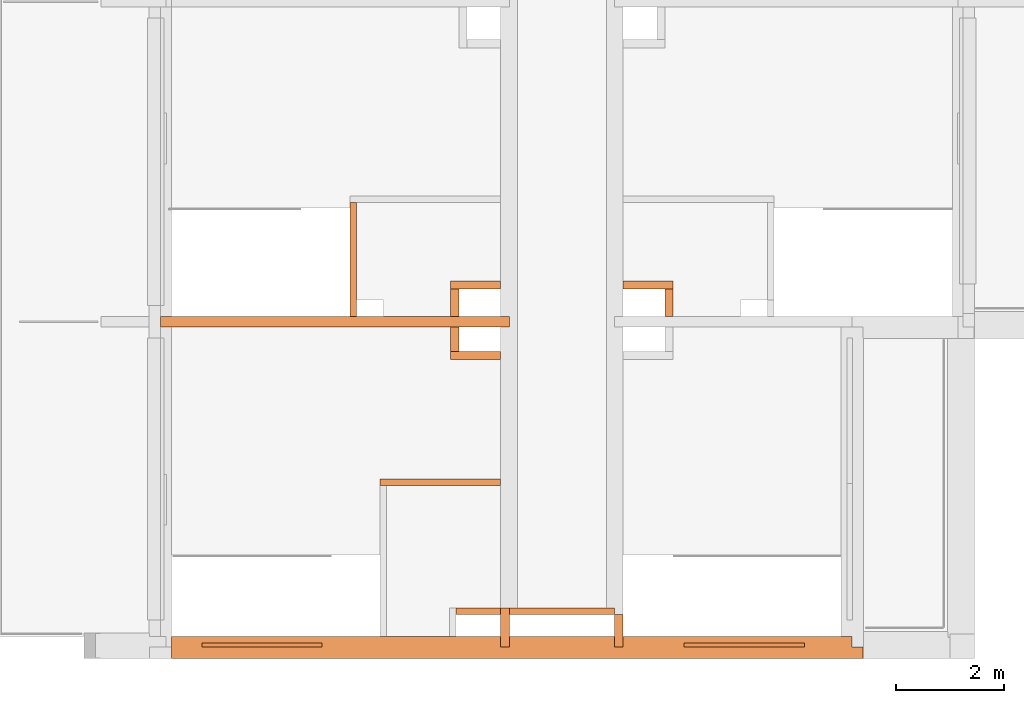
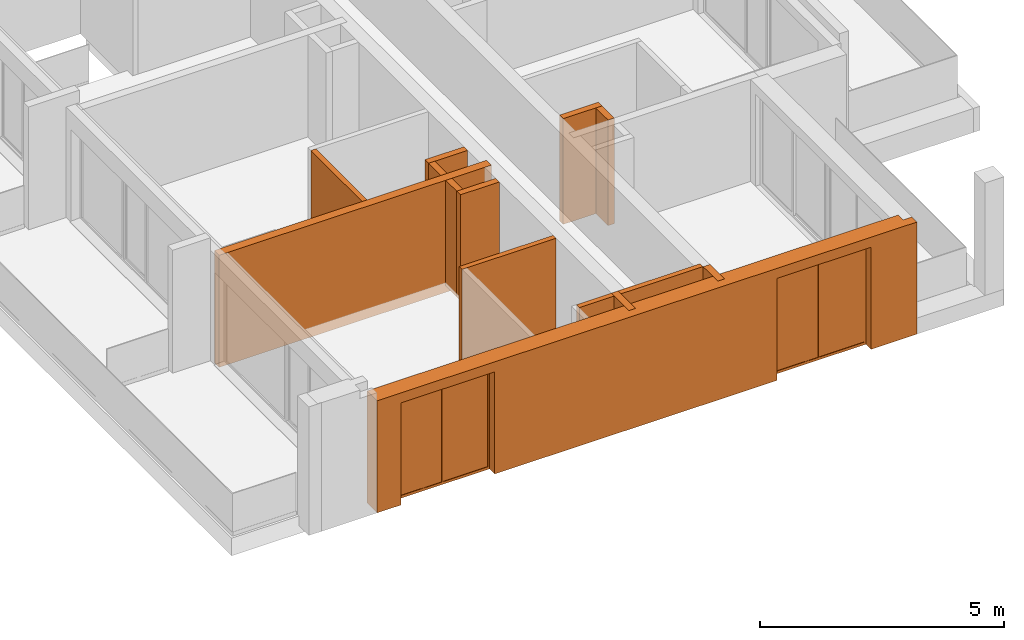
# One storey, part 26 of 30: 15 proxies, 2 openings.
"""IFC2X3 building model written with IfcOpenShell, lengths in millimetres."""

from ifc_helpers import new_model, entity, si_unit, converted_unit, derived_unit, money_unit, direction, frame, origin_with_axes, origin_2d_with_axis, place, context, subcontext, project, spatial, rectangle, extrude, faceted_brep, material, material_list, type_object, element, fill, save


model = new_model("IFC2X3")

# Units and contexts
model_context = context("Model", 3, precision=0.01, world=origin_with_axes(), true_north=direction((0.34421633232, 0.938890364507)))
body_context = subcontext(model_context, "Body", "Model", "MODEL_VIEW")
ifc_project = project(units=[si_unit("LENGTHUNIT", "METRE", prefix="MILLI"), si_unit("AREAUNIT", "SQUARE_METRE"), si_unit("VOLUMEUNIT", "CUBIC_METRE"), converted_unit("PLANEANGLEUNIT", "DEGREE", entity("IfcPlaneAngleMeasure", 0.0174532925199), si_unit("PLANEANGLEUNIT", "RADIAN"), dimensions=[0, 0, 0, 0, 0, 0, 0]), si_unit("SOLIDANGLEUNIT", "STERADIAN"), money_unit("USD"), converted_unit("TIMEUNIT", "Year", entity("IfcTimeMeasure", 31556926.0), si_unit("TIMEUNIT", "SECOND"), dimensions=[0, 0, 1, 0, 0, 0, 0]), si_unit("MASSUNIT", "GRAM", prefix="KILO"), si_unit("THERMODYNAMICTEMPERATUREUNIT", "DEGREE_CELSIUS"), si_unit("LUMINOUSINTENSITYUNIT", "LUMEN"), si_unit("ENERGYUNIT", "JOULE", prefix="MEGA"), derived_unit("THERMALCONDUCTANCEUNIT", [(si_unit("POWERUNIT", "WATT"), 1), (si_unit("LENGTHUNIT", "METRE"), -1), (si_unit("THERMODYNAMICTEMPERATUREUNIT", "KELVIN"), -1)]), derived_unit("SPECIFICHEATCAPACITYUNIT", [(si_unit("ENERGYUNIT", "JOULE"), 1), (si_unit("MASSUNIT", "GRAM", prefix="KILO"), -1), (si_unit("THERMODYNAMICTEMPERATUREUNIT", "KELVIN"), -1)]), derived_unit("MASSDENSITYUNIT", [(si_unit("MASSUNIT", "GRAM", prefix="KILO"), 1), (si_unit("VOLUMEUNIT", "CUBIC_METRE"), -1)])], contexts=[model_context])

# Site, building, storey
site_placement = place(None, origin_with_axes())
site = spatial("IfcSite", under=ifc_project, at=site_placement, Name="USTRONIE MORSKIE", CompositionType="ELEMENT")
building_placement = place(site_placement, origin_with_axes())
building = spatial("IfcBuilding", under=site, at=building_placement, Name="Budynek", CompositionType="ELEMENT")
storey_placement = place(building_placement, frame((0.0, 0.0, 16000.0), z_axis=(0.0, 0.0, 1.0), x_axis=(1.0, 0.0, 0.0)))
storey = spatial("IfcBuildingStorey", under=building, at=storey_placement, Name="ANTRESOLA - KOND. TECHNICZNA", CompositionType="ELEMENT", Elevation=16000.0)

# Proxies
ifc_material_1 = material(Name="Bloczki silikatowe")
building_element_proxy_type_1 = type_object("IfcBuildingElementProxyType", Name="Bloczki silikatowe 120", PredefinedType="NOTDEFINED")
proxy_1_placement = place(storey_placement, frame((416017.920919, 712141.199036, -159.999998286), z_axis=(0.0, 0.0, 1.0), x_axis=(-1.0, 0.0, 0.0)))
element("IfcBuildingElementProxy", 1, at=proxy_1_placement, inside=storey, type_object=building_element_proxy_type_1, material=ifc_material_1, Name="SW-04", context=body_context, shape_type="Brep", body=[
    faceted_brep([(2300.0, -59.9999999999, 2800.0), (2300.0, 59.9999999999, 2800.0), (80.0, 59.9999999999, 2800.0), (80.0, -59.9999999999, 2800.0), (2300.0, -59.9999999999, 0.0), (2300.0, 59.9999999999, 0.0), (80.0, 59.9999999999, 0.0), (80.0, -59.9999999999, 0.0)], [[[0, 1, 2, 3]], [[1, 0, 4, 5]], [[1, 5, 6, 2]], [[7, 3, 2, 6]], [[4, 0, 3, 7]], [[5, 4, 7, 6]]]),
])
proxy_2_placement = place(storey_placement, frame((413217.920919, 717361.219701, -159.999998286), z_axis=(0.0, 0.0, 1.0), x_axis=(0.0, -1.0, 0.0)))
element("IfcBuildingElementProxy", 2, at=proxy_2_placement, inside=storey, type_object=building_element_proxy_type_1, material=ifc_material_1, Name="SW-04", context=body_context, shape_type="Brep", body=[
    faceted_brep([(2160.02066499, -60.0, 2800.0), (2160.02066499, 60.0, 2800.0), (59.9999999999, 60.0, 2800.0), (59.9999999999, -60.0, 2800.0), (2160.02066499, -60.0, 0.0), (2160.02066499, 60.0, 0.0), (59.9999999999, 60.0, 0.0), (59.9999999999, -60.0, 0.0)], [[[0, 1, 2, 3]], [[1, 0, 4, 5]], [[1, 5, 6, 2]], [[7, 3, 2, 6]], [[4, 0, 3, 7]], [[5, 4, 7, 6]]]),
])
proxy_3_placement = place(storey_placement, frame((415117.920919, 709701.199036, -160.0), z_axis=(0.0, 0.0, 1.0), x_axis=(1.0, 0.0, 0.0)))
element("IfcBuildingElementProxy", 3, at=proxy_3_placement, inside=storey, type_object=building_element_proxy_type_1, material=ifc_material_1, Name="SW-04", context=body_context, shape_type="Brep", body=[
    faceted_brep([(980.0, 120.0, 0.0), (980.0, 120.0, 680.0), (2920.0, 120.0, 680.0), (2920.0, 120.0, 0.0), (980.0, 0.0, 0.0), (980.0, 0.0, 680.0), (2920.0, 0.0, 680.0), (2920.0, 0.0, 0.0)], [[[0, 1, 2, 3]], [[4, 5, 1, 0]], [[5, 6, 2, 1]], [[3, 2, 6, 7]], [[4, 0, 3, 7]], [[7, 6, 5, 4]]]),
    faceted_brep([(2920.0, 0.0, 2800.0), (2920.0, 0.0, 880.0), (2920.0, 120.0, 880.0), (2920.0, 120.0, 2800.0), (980.0, 0.0, 2800.0), (980.0, 0.0, 880.0), (980.0, 120.0, 880.0), (980.0, 120.0, 2800.0)], [[[0, 1, 2, 3]], [[4, 5, 1, 0]], [[5, 6, 2, 1]], [[3, 2, 6, 7]], [[7, 4, 0, 3]], [[7, 6, 5, 4]]]),
    faceted_brep([(0.0, 0.0, 2800.0), (820.0, 0.0, 2800.0), (820.0, 120.0, 2800.0), (0.0, 120.0, 2800.0), (820.0, 0.0, 0.0), (0.0, 0.0, 0.0), (820.0, 120.0, 0.0), (0.0, 120.0, 0.0)], [[[0, 1, 2, 3]], [[4, 1, 0, 5]], [[6, 2, 1, 4]], [[3, 2, 6, 7]], [[5, 0, 3, 7]], [[7, 6, 4, 5]]]),
])

# Proxies, openings
ifc_material_2 = material(Name="Beton konstrukcyjny B25")
ifc_material_3 = material(Name="Wełna ELEW")
ifc_material_4 = material(Name="Tynk zewnętrzny")
ifc_material_list = material_list([ifc_material_2, ifc_material_3, ifc_material_4])
building_element_proxy_type_2 = type_object("IfcBuildingElementProxyType", Name="20+20 410", PredefinedType="NOTDEFINED")
proxy_4_placement = place(storey_placement, frame((409767.920919, 709201.199036, -160.0), z_axis=(0.0, 0.0, 1.0), x_axis=(1.0, 0.0, 0.0)))
proxy_4 = element("IfcBuildingElementProxy", 4, at=proxy_4_placement, inside=storey, type_object=building_element_proxy_type_2, material=ifc_material_list, Name="SZ-01", context=body_context, shape_type="Brep", body=[
    faceted_brep([(100.0, 100.0, 0.0), (100.0, 100.0, 2800.0), (6170.0, 100.0, 2800.0), (6170.0, 100.0, 0.0), (100.0, -100.0, 2800.0), (100.0, -100.0, 0.0), (6170.0, -100.0, 2800.0), (6170.0, -100.0, 0.0)], [[[0, 1, 2, 3]], [[4, 1, 0, 5]], [[1, 4, 6, 2]], [[6, 7, 3, 2]], [[5, 0, 3, 7]], [[4, 5, 7, 6]]]),
    faceted_brep([(8430.0, 100.0, 0.0), (12650.0, 100.0, 0.0), (12650.0, -100.0, 0.0), (8430.0, -100.0, 0.0), (8430.0, 100.0, 2800.0), (12650.0, 100.0, 2800.0), (12650.0, -100.0, 2800.0), (8430.0, -100.0, 2800.0)], [[[0, 1, 2, 3]], [[4, 5, 1, 0]], [[2, 1, 5, 6]], [[3, 2, 6, 7]], [[3, 7, 4, 0]], [[7, 6, 5, 4]]]),
    faceted_brep([(6330.0, 100.0, 0.0), (8270.0, 100.0, 0.0), (8270.0, -100.0, 0.0), (6330.0, -100.0, 0.0), (6330.0, 100.0, 2800.0), (8270.0, 100.0, 2800.0), (8270.0, -100.0, 2800.0), (6330.0, -100.0, 2800.0)], [[[0, 1, 2, 3]], [[4, 5, 1, 0]], [[2, 1, 5, 6]], [[3, 2, 6, 7]], [[3, 7, 4, 0]], [[7, 6, 5, 4]]]),
    faceted_brep([(100.0, -100.0, 0.0), (100.0, -100.0, 2800.0), (12850.0, -100.0, 2800.0), (12850.0, -100.0, 0.0), (100.0, -300.0, 2800.0), (100.0, -300.0, 0.0), (12850.0, -300.0, 2800.0), (12850.0, -300.0, 0.0)], [[[0, 1, 2, 3]], [[4, 1, 0, 5]], [[1, 4, 6, 2]], [[6, 7, 3, 2]], [[5, 0, 3, 7]], [[4, 5, 7, 6]]]),
    faceted_brep([(100.0, -300.0, 0.0), (100.0, -300.0, 2800.0), (12860.0, -300.0, 2800.0), (12860.0, -300.0, 0.0), (100.0, -310.0, 2800.0), (100.0, -310.0, 0.0), (12860.0, -310.0, 2800.0), (12860.0, -310.0, 0.0)], [[[0, 1, 2, 3]], [[4, 1, 0, 5]], [[1, 4, 6, 2]], [[6, 7, 3, 2]], [[5, 0, 3, 7]], [[4, 5, 7, 6]]]),
])
opening_1_placement = place(proxy_4_placement, frame((1769.97021247, 0.0, 0.0), z_axis=(0.0, 0.0, 1.0), x_axis=(1.0, 0.0, 0.0)))
opening_1 = element("IfcOpeningElement", 5, at=opening_1_placement, cuts=proxy_4, Name="Wz.04", context=body_context, shape_type="SweptSolid", body=[
    extrude(rectangle(XDim=2220.00002235, YDim=2550.0, at=origin_2d_with_axis()), frame((0.0, -99.9999999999, 1275.0), z_axis=(0.0, -1.0, 0.0), x_axis=(1.0, 0.0, 0.0)), (0.0, 0.0, 1.0), 620.0),
    extrude(rectangle(XDim=2220.00002235, YDim=2550.0, at=origin_2d_with_axis()), frame((0.0, -99.9999999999, 1275.0), z_axis=(0.0, 1.0, 0.0), x_axis=(1.0, 0.0, 0.0)), (0.0, 0.0, 1.0), 610.0),
])
opening_2_placement = place(proxy_4_placement, frame((10660.0033173, 0.0, 0.0), z_axis=(0.0, 0.0, 1.0), x_axis=(1.0, 0.0, 0.0)))
opening_2 = element("IfcOpeningElement", 6, at=opening_2_placement, cuts=proxy_4, Name="Wz.04", context=body_context, shape_type="SweptSolid", body=[
    extrude(rectangle(XDim=2220.00663467, YDim=2550.0, at=origin_2d_with_axis()), frame((0.0, -99.9999999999, 1275.0), z_axis=(0.0, -1.0, 0.0), x_axis=(1.0, 0.0, 0.0)), (0.0, 0.0, 1.0), 620.0),
    extrude(rectangle(XDim=2220.00663467, YDim=2550.0, at=origin_2d_with_axis()), frame((0.0, -99.9999999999, 1275.0), z_axis=(0.0, 1.0, 0.0), x_axis=(1.0, 0.0, 0.0)), (0.0, 0.0, 1.0), 610.0),
])
building_element_proxy_type_3 = type_object("IfcBuildingElementProxyType", Name="Witryna sklepowa 23", PredefinedType="NOTDEFINED")
proxy_5_placement = place(opening_1_placement, frame((1110.00001118, 0.0, 0.0), z_axis=(0.0, 0.0, 1.0), x_axis=(-1.0, 0.0, 0.0)))
proxy_5 = element("IfcBuildingElementProxy", 7, at=proxy_5_placement, inside=storey, type_object=building_element_proxy_type_3, Name="Wz.04", context=body_context, shape_type="Brep", body=[
    faceted_brep([(2220.00002235, 99.9999999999, 2510.0), (2220.00002235, 19.9999999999, 2510.0), (2220.00002235, 19.9999999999, 65.0), (2220.00002235, 99.9999999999, 65.0), (2180.00002235, 99.9999999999, 2510.0), (2180.00002235, 19.9999999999, 2510.0), (2180.00002235, 19.9999999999, 65.0), (2180.00002235, 99.9999999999, 65.0)], [[[0, 1, 2, 3]], [[4, 5, 1, 0]], [[1, 5, 6, 2]], [[3, 2, 6, 7]], [[0, 3, 7, 4]], [[7, 6, 5, 4]]]),
    faceted_brep([(0.0, 99.9999999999, 65.0), (0.0, 19.9999999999, 65.0), (0.0, 19.9999999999, 2510.0), (0.0, 99.9999999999, 2510.0), (40.0, 99.9999999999, 65.0), (40.0, 19.9999999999, 65.0), (40.0, 19.9999999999, 2510.0), (40.0, 99.9999999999, 2510.0)], [[[0, 1, 2, 3]], [[4, 5, 1, 0]], [[1, 5, 6, 2]], [[3, 2, 6, 7]], [[0, 3, 7, 4]], [[7, 6, 5, 4]]]),
    faceted_brep([(0.0, 99.9999999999, 2550.0), (0.0, 19.9999999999, 2550.0), (2220.00002235, 19.9999999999, 2550.0), (2220.00002235, 99.9999999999, 2550.0), (0.0, 99.9999999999, 2510.0), (0.0, 19.9999999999, 2510.0), (40.0, 19.9999999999, 2510.0), (2180.00002235, 19.9999999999, 2510.0), (2220.00002235, 19.9999999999, 2510.0), (2220.00002235, 99.9999999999, 2510.0), (2180.00002235, 99.9999999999, 2510.0), (40.0, 99.9999999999, 2510.0)], [[[0, 1, 2, 3]], [[4, 5, 1, 0]], [[1, 5, 6, 7, 8, 2]], [[3, 2, 8, 9]], [[0, 3, 9, 10, 11, 4]], [[11, 6, 5, 4]], [[10, 7, 6, 11]], [[9, 8, 7, 10]]]),
    faceted_brep([(0.0, 99.9999999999, 65.0), (0.0, 19.9999999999, 65.0), (40.0, 19.9999999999, 65.0), (40.0, 99.9999999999, 65.0), (0.0, 99.9999999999, 0.0), (0.0, 19.9999999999, 0.0), (2220.00002235, 19.9999999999, 0.0), (2220.00002235, 19.9999999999, 65.0), (2180.00002235, 19.9999999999, 65.0), (2180.00002235, 99.9999999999, 65.0), (2220.00002235, 99.9999999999, 65.0), (2220.00002235, 99.9999999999, 0.0)], [[[0, 1, 2, 3]], [[4, 5, 1, 0]], [[1, 5, 6, 7, 8, 2]], [[3, 2, 8, 9]], [[0, 3, 9, 10, 11, 4]], [[11, 6, 5, 4]], [[10, 7, 6, 11]], [[9, 8, 7, 10]]]),
    faceted_brep([(1125.00001118, 50.0, 65.0), (1095.00001118, 50.0, 65.0), (1095.00001118, 99.9999999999, 65.0), (1125.00001118, 99.9999999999, 65.0), (1125.00001118, 50.0, 2510.0), (1095.00001118, 50.0, 2510.0), (1095.00001118, 99.9999999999, 2510.0), (1125.00001118, 99.9999999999, 2510.0)], [[[0, 1, 2, 3]], [[4, 5, 1, 0]], [[1, 5, 6, 2]], [[2, 6, 7, 3]], [[4, 0, 3, 7]], [[5, 4, 7, 6]]]),
    faceted_brep([(2180.00002235, 89.9999999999, 65.0), (2180.00002235, 79.9999999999, 65.0), (1125.00001118, 79.9999999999, 65.0), (1125.00001118, 89.9999999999, 65.0), (2180.00002235, 89.9999999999, 2510.0), (2180.00002235, 79.9999999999, 2510.0), (1125.00001118, 79.9999999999, 2510.0), (1125.00001118, 89.9999999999, 2510.0)], [[[0, 1, 2, 3]], [[4, 5, 1, 0]], [[1, 5, 6, 2]], [[3, 2, 6, 7]], [[0, 3, 7, 4]], [[7, 6, 5, 4]]]),
    faceted_brep([(1095.00001118, 89.9999999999, 65.0), (1095.00001118, 79.9999999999, 65.0), (40.0, 79.9999999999, 65.0), (40.0, 89.9999999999, 65.0), (1095.00001118, 89.9999999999, 2510.0), (1095.00001118, 79.9999999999, 2510.0), (40.0, 79.9999999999, 2510.0), (40.0, 89.9999999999, 2510.0)], [[[0, 1, 2, 3]], [[4, 5, 1, 0]], [[1, 5, 6, 2]], [[3, 2, 6, 7]], [[0, 3, 7, 4]], [[7, 6, 5, 4]]]),
])
fill(opening_1, proxy_5)
proxy_6_placement = place(opening_2_placement, frame((1110.00331734, 0.0, 0.0), z_axis=(0.0, 0.0, 1.0), x_axis=(-1.0, 0.0, 0.0)))
proxy_6 = element("IfcBuildingElementProxy", 8, at=proxy_6_placement, inside=storey, type_object=building_element_proxy_type_3, Name="Wz.04", context=body_context, shape_type="Brep", body=[
    faceted_brep([(2220.00663467, 99.9999999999, 2510.0), (2220.00663467, 19.9999999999, 2510.0), (2220.00663467, 19.9999999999, 65.0), (2220.00663467, 99.9999999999, 65.0), (2180.00663467, 99.9999999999, 2510.0), (2180.00663467, 19.9999999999, 2510.0), (2180.00663467, 19.9999999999, 65.0), (2180.00663467, 99.9999999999, 65.0)], [[[0, 1, 2, 3]], [[4, 5, 1, 0]], [[1, 5, 6, 2]], [[3, 2, 6, 7]], [[0, 3, 7, 4]], [[7, 6, 5, 4]]]),
    faceted_brep([(0.0, 99.9999999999, 65.0), (0.0, 19.9999999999, 65.0), (0.0, 19.9999999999, 2510.0), (0.0, 99.9999999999, 2510.0), (40.0, 99.9999999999, 65.0), (40.0, 19.9999999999, 65.0), (40.0, 19.9999999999, 2510.0), (40.0, 99.9999999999, 2510.0)], [[[0, 1, 2, 3]], [[4, 5, 1, 0]], [[1, 5, 6, 2]], [[3, 2, 6, 7]], [[0, 3, 7, 4]], [[7, 6, 5, 4]]]),
    faceted_brep([(0.0, 99.9999999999, 2550.0), (0.0, 19.9999999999, 2550.0), (2220.00663467, 19.9999999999, 2550.0), (2220.00663467, 99.9999999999, 2550.0), (0.0, 99.9999999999, 2510.0), (0.0, 19.9999999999, 2510.0), (40.0, 19.9999999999, 2510.0), (2180.00663467, 19.9999999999, 2510.0), (2220.00663467, 19.9999999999, 2510.0), (2220.00663467, 99.9999999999, 2510.0), (2180.00663467, 99.9999999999, 2510.0), (40.0, 99.9999999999, 2510.0)], [[[0, 1, 2, 3]], [[4, 5, 1, 0]], [[1, 5, 6, 7, 8, 2]], [[3, 2, 8, 9]], [[0, 3, 9, 10, 11, 4]], [[11, 6, 5, 4]], [[10, 7, 6, 11]], [[9, 8, 7, 10]]]),
    faceted_brep([(0.0, 99.9999999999, 65.0), (0.0, 19.9999999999, 65.0), (40.0, 19.9999999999, 65.0), (40.0, 99.9999999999, 65.0), (0.0, 99.9999999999, 0.0), (0.0, 19.9999999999, 0.0), (2220.00663467, 19.9999999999, 0.0), (2220.00663467, 19.9999999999, 65.0), (2180.00663467, 19.9999999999, 65.0), (2180.00663467, 99.9999999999, 65.0), (2220.00663467, 99.9999999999, 65.0), (2220.00663467, 99.9999999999, 0.0)], [[[0, 1, 2, 3]], [[4, 5, 1, 0]], [[1, 5, 6, 7, 8, 2]], [[3, 2, 8, 9]], [[0, 3, 9, 10, 11, 4]], [[11, 6, 5, 4]], [[10, 7, 6, 11]], [[9, 8, 7, 10]]]),
    faceted_brep([(1125.00331734, 50.0, 65.0), (1095.00331734, 50.0, 65.0), (1095.00331734, 99.9999999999, 65.0), (1125.00331734, 99.9999999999, 65.0), (1125.00331734, 50.0, 2510.0), (1095.00331734, 50.0, 2510.0), (1095.00331734, 99.9999999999, 2510.0), (1125.00331734, 99.9999999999, 2510.0)], [[[0, 1, 2, 3]], [[4, 5, 1, 0]], [[1, 5, 6, 2]], [[2, 6, 7, 3]], [[4, 0, 3, 7]], [[5, 4, 7, 6]]]),
    faceted_brep([(2180.00663467, 89.9999999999, 65.0), (2180.00663467, 79.9999999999, 65.0), (1125.00331734, 79.9999999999, 65.0), (1125.00331734, 89.9999999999, 65.0), (2180.00663467, 89.9999999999, 2510.0), (2180.00663467, 79.9999999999, 2510.0), (1125.00331734, 79.9999999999, 2510.0), (1125.00331734, 89.9999999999, 2510.0)], [[[0, 1, 2, 3]], [[4, 5, 1, 0]], [[1, 5, 6, 2]], [[3, 2, 6, 7]], [[0, 3, 7, 4]], [[7, 6, 5, 4]]]),
    faceted_brep([(1095.00331734, 89.9999999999, 65.0), (1095.00331734, 79.9999999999, 65.0), (40.0, 79.9999999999, 65.0), (40.0, 89.9999999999, 65.0), (1095.00331734, 89.9999999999, 2510.0), (1095.00331734, 79.9999999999, 2510.0), (40.0, 79.9999999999, 2510.0), (40.0, 89.9999999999, 2510.0)], [[[0, 1, 2, 3]], [[4, 5, 1, 0]], [[1, 5, 6, 2]], [[3, 2, 6, 7]], [[0, 3, 7, 4]], [[7, 6, 5, 4]]]),
])
fill(opening_2, proxy_6)

# Proxies
building_element_proxy_type_4 = type_object("IfcBuildingElementProxyType", Name="Bloczki silikatowe 150", PredefinedType="NOTDEFINED")
proxy_7_placement = place(storey_placement, frame((415167.920018, 715701.201014, 0.0), z_axis=(0.0, 0.0, 1.0), x_axis=(0.0, -1.0, 0.0)))
element("IfcBuildingElementProxy", 9, at=proxy_7_placement, inside=storey, type_object=building_element_proxy_type_4, material=ifc_material_1, Name="SW-03", context=body_context, shape_type="Brep", body=[
    faceted_brep([(0.0, -150.0, 0.0), (0.0, -150.0, 2640.0), (0.0, 0.0, 2640.0), (0.0, 0.0, 0.0), (500.001977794, -150.0, 0.0), (500.001977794, -150.0, 2640.0), (500.001977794, 0.0, 2640.0), (500.001977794, 0.0, 0.0)], [[[0, 1, 2, 3]], [[4, 5, 1, 0]], [[5, 6, 2, 1]], [[3, 2, 6, 7]], [[0, 3, 7, 4]], [[7, 6, 5, 4]]]),
])
proxy_8_placement = place(storey_placement, frame((418967.92182, 715701.201014, 0.0), z_axis=(0.0, 0.0, 1.0), x_axis=(0.0, -1.0, 0.0)))
element("IfcBuildingElementProxy", 10, at=proxy_8_placement, inside=storey, type_object=building_element_proxy_type_4, material=ifc_material_1, Name="SW-03", context=body_context, shape_type="Brep", body=[
    faceted_brep([(0.0, 0.0, 0.0), (0.0, 0.0, 2640.0), (0.0, 150.0, 2640.0), (0.0, 150.0, 0.0), (500.001977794, 0.0, 0.0), (500.001977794, 0.0, 2640.0), (500.001977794, 150.0, 2640.0), (500.001977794, 150.0, 0.0)], [[[0, 1, 2, 3]], [[4, 5, 1, 0]], [[5, 6, 2, 1]], [[3, 2, 6, 7]], [[0, 3, 7, 4]], [[7, 6, 5, 4]]]),
])
proxy_9_placement = place(storey_placement, frame((416017.920919, 715701.201014, 0.0), z_axis=(0.0, 0.0, 1.0), x_axis=(-1.0, 0.0, 0.0)))
element("IfcBuildingElementProxy", 11, at=proxy_9_placement, inside=storey, type_object=building_element_proxy_type_4, material=ifc_material_1, Name="SW-03", context=body_context, shape_type="Brep", body=[
    faceted_brep([(1000.00090117, -150.0, 0.0), (1000.00090117, -150.0, 2640.0), (80.0000000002, -150.0, 2640.0), (80.0000000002, -150.0, 0.0), (1000.00090117, 0.0, 0.0), (1000.00090117, 0.0, 2640.0), (80.0000000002, 0.0, 2640.0), (80.0000000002, 0.0, 0.0)], [[[0, 1, 2, 3]], [[4, 5, 1, 0]], [[5, 6, 2, 1]], [[3, 2, 6, 7]], [[7, 4, 0, 3]], [[7, 6, 5, 4]]]),
])
proxy_10_placement = place(storey_placement, frame((418117.920919, 715701.201014, 0.0), z_axis=(0.0, 0.0, 1.0), x_axis=(1.0, 0.0, 0.0)))
element("IfcBuildingElementProxy", 12, at=proxy_10_placement, inside=storey, type_object=building_element_proxy_type_4, material=ifc_material_1, Name="SW-03", context=body_context, shape_type="Brep", body=[
    faceted_brep([(80.0000000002, 150.0, 0.0), (80.0000000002, 150.0, 2640.0), (1000.00090117, 150.0, 2640.0), (1000.00090117, 150.0, 0.0), (80.0000000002, 0.0, 0.0), (80.0000000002, 0.0, 2640.0), (1000.00090117, 0.0, 2640.0), (1000.00090117, 0.0, 0.0)], [[[0, 1, 2, 3]], [[4, 5, 1, 0]], [[5, 6, 2, 1]], [[3, 2, 6, 7]], [[3, 7, 4, 0]], [[7, 6, 5, 4]]]),
])
proxy_11_placement = place(storey_placement, frame((415167.920018, 714551.197058, 0.0), z_axis=(0.0, 0.0, 1.0), x_axis=(0.0, 1.0, 0.0)))
element("IfcBuildingElementProxy", 13, at=proxy_11_placement, inside=storey, type_object=building_element_proxy_type_4, material=ifc_material_1, Name="SW-03", context=body_context, shape_type="Brep", body=[
    faceted_brep([(450.001977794, 150.0, 0.0), (450.001977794, 150.0, 2640.0), (450.001977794, 0.0, 2640.0), (450.001977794, 0.0, 0.0), (0.0, 150.0, 0.0), (0.0, 150.0, 2640.0), (0.0, 0.0, 2640.0), (0.0, 0.0, 0.0)], [[[0, 1, 2, 3]], [[4, 5, 1, 0]], [[5, 6, 2, 1]], [[3, 2, 6, 7]], [[7, 4, 0, 3]], [[7, 6, 5, 4]]]),
])
proxy_12_placement = place(storey_placement, frame((416017.920919, 714551.197058, 0.0), z_axis=(0.0, 0.0, 1.0), x_axis=(-1.0, 0.0, 0.0)))
element("IfcBuildingElementProxy", 14, at=proxy_12_placement, inside=storey, type_object=building_element_proxy_type_4, material=ifc_material_1, Name="SW-03", context=body_context, shape_type="Brep", body=[
    faceted_brep([(1000.00090117, 0.0, 0.0), (1000.00090117, 0.0, 2640.0), (80.0000000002, 0.0, 2640.0), (80.0000000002, 0.0, 0.0), (1000.00090117, 150.0, 0.0), (1000.00090117, 150.0, 2640.0), (80.0000000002, 150.0, 2640.0), (80.0000000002, 150.0, 0.0)], [[[0, 1, 2, 3]], [[4, 5, 1, 0]], [[5, 6, 2, 1]], [[3, 2, 6, 7]], [[7, 4, 0, 3]], [[7, 6, 5, 4]]]),
])
building_element_proxy_type_5 = type_object("IfcBuildingElementProxyType", Name="Beton konstrukcyjny B25 200", PredefinedType="NOTDEFINED")
proxy_13_placement = place(storey_placement, frame((409767.920919, 715101.199036, -160.0), z_axis=(0.0, 0.0, 1.0), x_axis=(1.0, 0.0, 0.0)))
element("IfcBuildingElementProxy", 15, at=proxy_13_placement, inside=storey, type_object=building_element_proxy_type_5, material=ifc_material_2, Name="SW-01", context=body_context, shape_type="Brep", body=[
    faceted_brep([(-100.0, -100.0, 0.0), (-100.0, 100.0, 0.0), (6330.0, 100.0, 0.0), (6330.0, -100.0, 0.0), (-100.0, -100.0, 2800.0), (-100.0, 100.0, 2800.0), (6330.0, 100.0, 2800.0), (6330.0, -100.0, 2800.0)], [[[0, 1, 2, 3]], [[0, 4, 5, 1]], [[1, 5, 6, 2]], [[6, 7, 3, 2]], [[4, 0, 3, 7]], [[5, 4, 7, 6]]]),
])
building_element_proxy_type_6 = type_object("IfcBuildingElementProxyType", Name="Beton konstrukcyjny B25 160", PredefinedType="NOTDEFINED")
proxy_14_placement = place(storey_placement, frame((416017.920919, 709701.199036, -250.0), z_axis=(0.0, 0.0, 1.0), x_axis=(0.0, -1.0, 0.0)))
element("IfcBuildingElementProxy", 16, at=proxy_14_placement, inside=storey, type_object=building_element_proxy_type_6, material=ifc_material_2, Name="SW-01", context=body_context, shape_type="Brep", body=[
    faceted_brep([(-120.0, 80.0, 2890.0), (-120.0, -80.0, 2890.0), (600.0, -80.0, 2890.0), (600.0, 80.0, 2890.0), (-120.0, 80.0, 770.0), (-120.0, -80.0, 770.0), (0.0, -80.0, 0.0), (600.0, -80.0, 0.0), (-120.0, -80.0, 90.0), (0.0, -80.0, 90.0), (600.0, 80.0, 0.0), (0.0, 80.0, 0.0), (0.0, 80.0, 90.0), (-120.0, 80.0, 90.0)], [[[0, 1, 2, 3]], [[0, 4, 5, 1]], [[6, 7, 2, 1, 5, 8, 9]], [[7, 10, 3, 2]], [[4, 0, 3, 10, 11, 12, 13]], [[4, 13, 8, 5]], [[6, 11, 10, 7]], [[13, 12, 9, 8]], [[11, 6, 9, 12]]]),
])
proxy_15_placement = place(storey_placement, frame((418117.920919, 709701.199036, -160.0), z_axis=(0.0, 0.0, 1.0), x_axis=(0.0, -1.0, 0.0)))
element("IfcBuildingElementProxy", 17, at=proxy_15_placement, inside=storey, type_object=building_element_proxy_type_6, material=ifc_material_2, Name="SW-01", context=body_context, shape_type="Brep", body=[
    faceted_brep([(600.0, -80.0, 0.0), (0.0, -80.0, 0.0), (0.0, 80.0, 0.0), (600.0, 80.0, 0.0), (600.0, -80.0, 2800.0), (0.0, -80.0, 2800.0), (0.0, 80.0, 2800.0), (600.0, 80.0, 2800.0)], [[[0, 1, 2, 3]], [[4, 5, 1, 0]], [[1, 5, 6, 2]], [[3, 2, 6, 7]], [[7, 4, 0, 3]], [[7, 6, 5, 4]]]),
])

save(model, "model.ifc")
